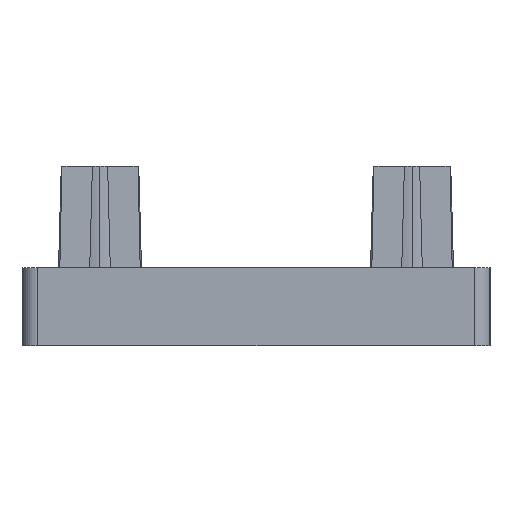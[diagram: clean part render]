
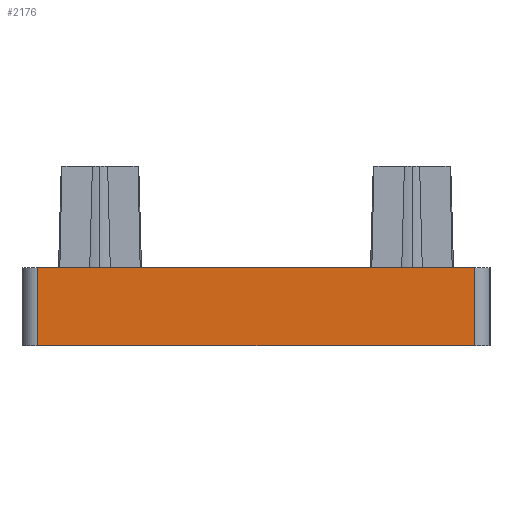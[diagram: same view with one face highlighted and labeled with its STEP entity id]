
A CAD part, left-side view. The second image highlights one B-rep face of the part: STEP entity #2176.
In plain terms, the highlighted planar face has unit normal (-1, 0, 0).
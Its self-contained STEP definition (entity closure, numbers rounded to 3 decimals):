
#202 = DIRECTION ( 'NONE',  ( 0., 0., 1. ) ) ;
#270 = LINE ( 'NONE', #1033, #777 ) ;
#393 = ORIENTED_EDGE ( 'NONE', *, *, #1061, .F. ) ;
#425 = DIRECTION ( 'NONE',  ( 0., -1., 0. ) ) ;
#441 = VECTOR ( 'NONE', #1729, 1000. ) ;
#546 = EDGE_CURVE ( 'NONE', #1901, #2269, #565, .T. ) ;
#557 = PLANE ( 'NONE',  #1212 ) ;
#565 = LINE ( 'NONE', #963, #441 ) ;
#610 = CARTESIAN_POINT ( 'NONE',  ( -30., -14., 0. ) ) ;
#648 = EDGE_CURVE ( 'NONE', #1109, #1209, #270, .T. ) ;
#708 = LINE ( 'NONE', #2060, #1254 ) ;
#777 = VECTOR ( 'NONE', #1236, 1000. ) ;
#963 = CARTESIAN_POINT ( 'NONE',  ( -30., -14., 0. ) ) ;
#982 = CARTESIAN_POINT ( 'NONE',  ( -30., 14., 0. ) ) ;
#1033 = CARTESIAN_POINT ( 'NONE',  ( -30., 14., 0. ) ) ;
#1061 = EDGE_CURVE ( 'NONE', #1109, #2269, #708, .T. ) ;
#1062 = ORIENTED_EDGE ( 'NONE', *, *, #648, .T. ) ;
#1109 = VERTEX_POINT ( 'NONE', #2306 ) ;
#1118 = DIRECTION ( 'NONE',  ( 0., -1., 0. ) ) ;
#1139 = EDGE_CURVE ( 'NONE', #1209, #1901, #1734, .T. ) ;
#1200 = ORIENTED_EDGE ( 'NONE', *, *, #1139, .T. ) ;
#1209 = VERTEX_POINT ( 'NONE', #982 ) ;
#1212 = AXIS2_PLACEMENT_3D ( 'NONE', #2417, #2244, #202 ) ;
#1236 = DIRECTION ( 'NONE',  ( 0., 0., -1. ) ) ;
#1254 = VECTOR ( 'NONE', #1118, 1000. ) ;
#1329 = CARTESIAN_POINT ( 'NONE',  ( -30., -14., 5. ) ) ;
#1399 = ORIENTED_EDGE ( 'NONE', *, *, #546, .T. ) ;
#1611 = VECTOR ( 'NONE', #425, 1000. ) ;
#1729 = DIRECTION ( 'NONE',  ( 0., 0., 1. ) ) ;
#1734 = LINE ( 'NONE', #2118, #1611 ) ;
#1792 = EDGE_LOOP ( 'NONE', ( #393, #1062, #1200, #1399 ) ) ;
#1901 = VERTEX_POINT ( 'NONE', #610 ) ;
#2059 = FACE_OUTER_BOUND ( 'NONE', #1792, .T. ) ;
#2060 = CARTESIAN_POINT ( 'NONE',  ( -30., 15., 5. ) ) ;
#2118 = CARTESIAN_POINT ( 'NONE',  ( -30., 15., 0. ) ) ;
#2176 = ADVANCED_FACE ( 'NONE', ( #2059 ), #557, .T. ) ;
#2244 = DIRECTION ( 'NONE',  ( -1., 0., 0. ) ) ;
#2269 = VERTEX_POINT ( 'NONE', #1329 ) ;
#2306 = CARTESIAN_POINT ( 'NONE',  ( -30., 14., 5. ) ) ;
#2417 = CARTESIAN_POINT ( 'NONE',  ( -30., 15., 0. ) ) ;
